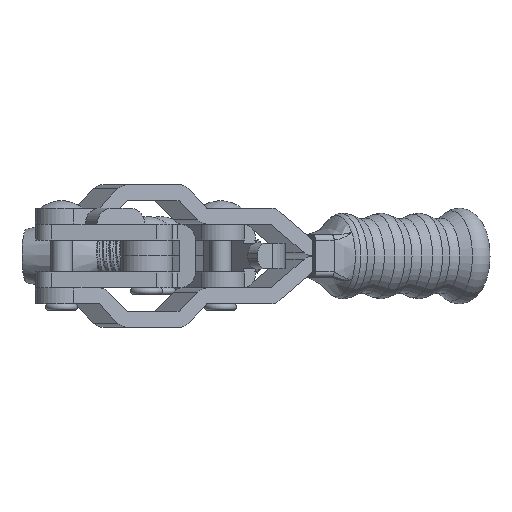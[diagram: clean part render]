
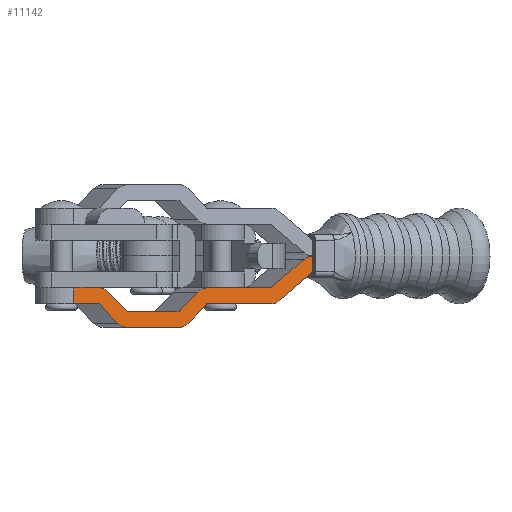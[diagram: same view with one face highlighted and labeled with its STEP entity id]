
A CAD part, front view. The second image highlights one B-rep face of the part: STEP entity #11142.
In plain terms, the highlighted planar face has unit normal (0.465, -0.885, 0) as drawn and (0, 0, 1) by its records, which use the part's own axes.
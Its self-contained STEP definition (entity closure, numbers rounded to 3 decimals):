
#930=PLANE('',#12058);
#1242=FACE_OUTER_BOUND('',#1881,.T.);
#1881=EDGE_LOOP('',(#7979,#7980,#7981,#7982,#7983,#7984,#7985,#7986,#7987,
#7988,#7989,#7990,#7991,#7992,#7993,#7994,#7995,#7996,#7997,#7998,#7999,
#8000));
#2589=LINE('',#15464,#3531);
#2592=LINE('',#15470,#3534);
#2596=LINE('',#15482,#3538);
#2600=LINE('',#15494,#3542);
#2603=LINE('',#15500,#3545);
#2607=LINE('',#15512,#3549);
#2609=LINE('',#15518,#3551);
#2612=LINE('',#15527,#3554);
#2616=LINE('',#15539,#3558);
#2619=LINE('',#15545,#3561);
#2623=LINE('',#15557,#3565);
#2626=LINE('',#15563,#3568);
#2629=LINE('',#15569,#3571);
#2632=LINE('',#15581,#3574);
#2633=LINE('',#15583,#3575);
#2634=LINE('',#15584,#3576);
#3531=VECTOR('',#13034,1000.);
#3534=VECTOR('',#13039,1000.);
#3538=VECTOR('',#13051,1000.);
#3542=VECTOR('',#13063,1000.);
#3545=VECTOR('',#13068,1000.);
#3549=VECTOR('',#13080,1000.);
#3551=VECTOR('',#13086,1000.);
#3554=VECTOR('',#13093,1000.);
#3558=VECTOR('',#13105,1000.);
#3561=VECTOR('',#13110,1000.);
#3565=VECTOR('',#13122,1000.);
#3568=VECTOR('',#13127,1000.);
#3571=VECTOR('',#13132,1000.);
#3574=VECTOR('',#13145,1000.);
#3575=VECTOR('',#13148,1000.);
#3576=VECTOR('',#13149,1000.);
#4433=CIRCLE('',#12027,3.);
#4435=CIRCLE('',#12031,3.);
#4437=CIRCLE('',#12036,3.);
#4441=CIRCLE('',#12044,3.);
#4443=CIRCLE('',#12049,3.);
#4445=CIRCLE('',#12055,3.);
#4779=VERTEX_POINT('',#15457);
#4782=VERTEX_POINT('',#15462);
#4784=VERTEX_POINT('',#15468);
#4786=VERTEX_POINT('',#15474);
#4788=VERTEX_POINT('',#15480);
#4790=VERTEX_POINT('',#15486);
#4792=VERTEX_POINT('',#15492);
#4794=VERTEX_POINT('',#15498);
#4796=VERTEX_POINT('',#15504);
#4798=VERTEX_POINT('',#15510);
#4800=VERTEX_POINT('',#15516);
#4801=VERTEX_POINT('',#15520);
#4804=VERTEX_POINT('',#15525);
#4806=VERTEX_POINT('',#15531);
#4808=VERTEX_POINT('',#15537);
#4810=VERTEX_POINT('',#15543);
#4812=VERTEX_POINT('',#15549);
#4814=VERTEX_POINT('',#15555);
#4816=VERTEX_POINT('',#15561);
#4818=VERTEX_POINT('',#15567);
#4820=VERTEX_POINT('',#15573);
#4822=VERTEX_POINT('',#15579);
#5999=EDGE_CURVE('',#4779,#4782,#2589,.T.);
#6002=EDGE_CURVE('',#4782,#4784,#2592,.T.);
#6005=EDGE_CURVE('',#4784,#4786,#4433,.T.);
#6008=EDGE_CURVE('',#4786,#4788,#2596,.T.);
#6011=EDGE_CURVE('',#4788,#4790,#4435,.T.);
#6014=EDGE_CURVE('',#4790,#4792,#2600,.T.);
#6017=EDGE_CURVE('',#4792,#4794,#2603,.T.);
#6020=EDGE_CURVE('',#4794,#4796,#4437,.T.);
#6023=EDGE_CURVE('',#4796,#4798,#2607,.T.);
#6026=EDGE_CURVE('',#4798,#4800,#2609,.T.);
#6030=EDGE_CURVE('',#4801,#4804,#2612,.T.);
#6033=EDGE_CURVE('',#4804,#4806,#4441,.T.);
#6036=EDGE_CURVE('',#4806,#4808,#2616,.T.);
#6039=EDGE_CURVE('',#4808,#4810,#2619,.T.);
#6042=EDGE_CURVE('',#4810,#4812,#4443,.T.);
#6045=EDGE_CURVE('',#4812,#4814,#2623,.T.);
#6048=EDGE_CURVE('',#4814,#4816,#2626,.T.);
#6051=EDGE_CURVE('',#4816,#4818,#2629,.T.);
#6054=EDGE_CURVE('',#4818,#4820,#4445,.T.);
#6057=EDGE_CURVE('',#4820,#4822,#2632,.T.);
#6058=EDGE_CURVE('',#4822,#4779,#2633,.T.);
#6059=EDGE_CURVE('',#4800,#4801,#2634,.T.);
#7979=ORIENTED_EDGE('',*,*,#6057,.T.);
#7980=ORIENTED_EDGE('',*,*,#6058,.T.);
#7981=ORIENTED_EDGE('',*,*,#5999,.T.);
#7982=ORIENTED_EDGE('',*,*,#6002,.T.);
#7983=ORIENTED_EDGE('',*,*,#6005,.T.);
#7984=ORIENTED_EDGE('',*,*,#6008,.T.);
#7985=ORIENTED_EDGE('',*,*,#6011,.T.);
#7986=ORIENTED_EDGE('',*,*,#6014,.T.);
#7987=ORIENTED_EDGE('',*,*,#6017,.T.);
#7988=ORIENTED_EDGE('',*,*,#6020,.T.);
#7989=ORIENTED_EDGE('',*,*,#6023,.T.);
#7990=ORIENTED_EDGE('',*,*,#6026,.T.);
#7991=ORIENTED_EDGE('',*,*,#6059,.T.);
#7992=ORIENTED_EDGE('',*,*,#6030,.T.);
#7993=ORIENTED_EDGE('',*,*,#6033,.T.);
#7994=ORIENTED_EDGE('',*,*,#6036,.T.);
#7995=ORIENTED_EDGE('',*,*,#6039,.T.);
#7996=ORIENTED_EDGE('',*,*,#6042,.T.);
#7997=ORIENTED_EDGE('',*,*,#6045,.T.);
#7998=ORIENTED_EDGE('',*,*,#6048,.T.);
#7999=ORIENTED_EDGE('',*,*,#6051,.T.);
#8000=ORIENTED_EDGE('',*,*,#6054,.T.);
#11142=ADVANCED_FACE('',(#1242),#930,.T.);
#12027=AXIS2_PLACEMENT_3D('',#15476,#13045,#13046);
#12031=AXIS2_PLACEMENT_3D('',#15488,#13057,#13058);
#12036=AXIS2_PLACEMENT_3D('',#15506,#13074,#13075);
#12044=AXIS2_PLACEMENT_3D('',#15533,#13099,#13100);
#12049=AXIS2_PLACEMENT_3D('',#15551,#13116,#13117);
#12055=AXIS2_PLACEMENT_3D('',#15575,#13138,#13139);
#12058=AXIS2_PLACEMENT_3D('',#15582,#13146,#13147);
#13034=DIRECTION('',(-1.,0.,0.));
#13039=DIRECTION('',(-0.74,0.673,0.));
#13045=DIRECTION('center_axis',(0.,0.,1.));
#13046=DIRECTION('ref_axis',(1.,0.,0.));
#13051=DIRECTION('',(-1.,0.,0.));
#13057=DIRECTION('center_axis',(0.,0.,1.));
#13058=DIRECTION('ref_axis',(-1.,0.,0.));
#13063=DIRECTION('',(-0.74,-0.673,0.));
#13068=DIRECTION('',(-1.,0.,0.));
#13074=DIRECTION('center_axis',(0.,0.,1.));
#13075=DIRECTION('ref_axis',(1.,0.,0.));
#13080=DIRECTION('',(-0.796,-0.605,0.));
#13086=DIRECTION('',(-1.,0.,0.));
#13093=DIRECTION('',(1.,0.,0.));
#13099=DIRECTION('center_axis',(0.,0.,1.));
#13100=DIRECTION('ref_axis',(1.,0.,0.));
#13105=DIRECTION('',(0.796,0.605,0.));
#13110=DIRECTION('',(1.,0.,0.));
#13116=DIRECTION('center_axis',(0.,0.,1.));
#13117=DIRECTION('ref_axis',(-1.,0.,0.));
#13122=DIRECTION('',(0.74,0.673,0.));
#13127=DIRECTION('',(1.,0.,0.));
#13132=DIRECTION('',(0.74,-0.673,0.));
#13138=DIRECTION('center_axis',(0.,0.,1.));
#13139=DIRECTION('ref_axis',(1.,0.,0.));
#13145=DIRECTION('',(1.,0.,0.));
#13146=DIRECTION('center_axis',(0.,0.,1.));
#13147=DIRECTION('ref_axis',(1.,0.,0.));
#13148=DIRECTION('',(0.,1.,0.));
#13149=DIRECTION('',(0.,-1.,0.));
#15457=CARTESIAN_POINT('',(-4.9,0.,9.8));
#15462=CARTESIAN_POINT('',(-10.3,0.,9.8));
#15464=CARTESIAN_POINT('',(0.,0.,9.8));
#15468=CARTESIAN_POINT('',(-14.282,3.62,9.8));
#15470=CARTESIAN_POINT('',(-10.3,0.,9.8));
#15474=CARTESIAN_POINT('',(-16.3,4.4,9.8));
#15476=CARTESIAN_POINT('Origin',(-16.3,1.4,9.8));
#15480=CARTESIAN_POINT('',(-27.3,4.4,9.8));
#15482=CARTESIAN_POINT('',(-16.3,4.4,9.8));
#15486=CARTESIAN_POINT('',(-29.318,3.62,9.8));
#15488=CARTESIAN_POINT('Origin',(-27.3,1.4,9.8));
#15492=CARTESIAN_POINT('',(-33.3,0.,9.8));
#15494=CARTESIAN_POINT('',(-33.3,0.,9.8));
#15498=CARTESIAN_POINT('',(-46.8,0.,9.8));
#15500=CARTESIAN_POINT('',(-33.3,0.,9.8));
#15504=CARTESIAN_POINT('',(-48.616,-0.612,9.8));
#15506=CARTESIAN_POINT('Origin',(-46.8,-3.,9.8));
#15510=CARTESIAN_POINT('',(-55.7,-6.,9.8));
#15512=CARTESIAN_POINT('',(-55.7,-6.,9.8));
#15516=CARTESIAN_POINT('',(-85.396,-6.,9.8));
#15518=CARTESIAN_POINT('',(-55.7,-6.,9.8));
#15520=CARTESIAN_POINT('',(-85.396,-9.,9.8));
#15525=CARTESIAN_POINT('',(-55.7,-9.,9.8));
#15527=CARTESIAN_POINT('',(-55.7,-9.,9.8));
#15531=CARTESIAN_POINT('',(-53.884,-8.388,9.8));
#15533=CARTESIAN_POINT('Origin',(-55.7,-6.,9.8));
#15537=CARTESIAN_POINT('',(-46.8,-3.,9.8));
#15539=CARTESIAN_POINT('',(-46.8,-3.,9.8));
#15543=CARTESIAN_POINT('',(-33.3,-3.,9.8));
#15545=CARTESIAN_POINT('',(-33.3,-3.,9.8));
#15549=CARTESIAN_POINT('',(-31.282,-2.22,9.8));
#15551=CARTESIAN_POINT('Origin',(-33.3,0.,
9.8));
#15555=CARTESIAN_POINT('',(-27.3,1.4,9.8));
#15557=CARTESIAN_POINT('',(-27.3,1.4,9.8));
#15561=CARTESIAN_POINT('',(-16.3,1.4,9.8));
#15563=CARTESIAN_POINT('',(-16.3,1.4,9.8));
#15567=CARTESIAN_POINT('',(-12.318,-2.22,9.8));
#15569=CARTESIAN_POINT('',(-16.3,1.4,9.8));
#15573=CARTESIAN_POINT('',(-10.3,-3.,9.8));
#15575=CARTESIAN_POINT('Origin',(-10.3,0.,9.8));
#15579=CARTESIAN_POINT('',(-4.9,-3.,9.8));
#15581=CARTESIAN_POINT('',(0.,-3.,9.8));
#15582=CARTESIAN_POINT('Origin',(-10.3,0.,9.8));
#15583=CARTESIAN_POINT('',(-4.9,0.,9.8));
#15584=CARTESIAN_POINT('',(-85.396,-9.,9.8));
